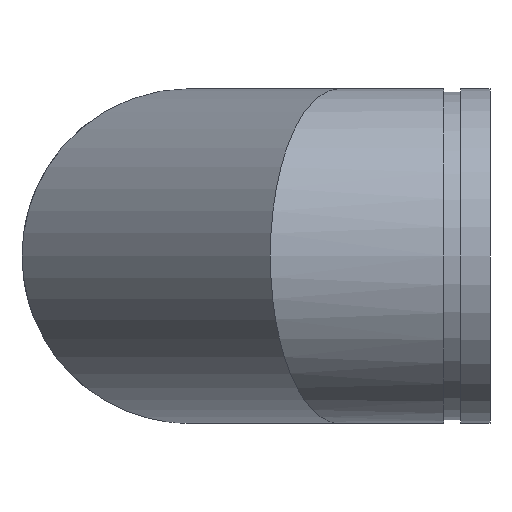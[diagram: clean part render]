
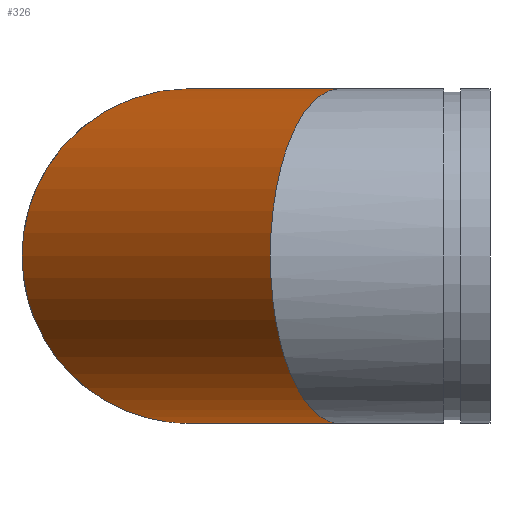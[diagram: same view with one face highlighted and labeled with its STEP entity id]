
A CAD part, left-side view. The second image highlights one B-rep face of the part: STEP entity #326.
In plain terms, the highlighted cylindrical face has radius 109.537 mm (diameter 219.075 mm), a full revolution.
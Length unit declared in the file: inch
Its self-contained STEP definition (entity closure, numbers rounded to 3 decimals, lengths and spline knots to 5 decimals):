
#51=ELLIPSE('',#383,4.66782,4.3125);
#52=ELLIPSE('',#384,4.66782,4.3125);
#53=ELLIPSE('',#385,4.66782,4.3125);
#54=ELLIPSE('',#388,4.66782,4.3125);
#55=ELLIPSE('',#389,4.66782,4.3125);
#56=ELLIPSE('',#390,4.66782,4.3125);
#82=FACE_OUTER_BOUND('',#103,.T.);
#103=EDGE_LOOP('',(#269,#270,#271,#272,#273,#274,#275,#276));
#115=LINE('',#606,#125);
#125=VECTOR('',#494,4.3125);
#165=VERTEX_POINT('',#596);
#166=VERTEX_POINT('',#598);
#167=VERTEX_POINT('',#600);
#168=VERTEX_POINT('',#605);
#169=VERTEX_POINT('',#607);
#170=VERTEX_POINT('',#609);
#201=EDGE_CURVE('',#165,#166,#51,.T.);
#202=EDGE_CURVE('',#167,#166,#52,.T.);
#203=EDGE_CURVE('',#167,#165,#53,.T.);
#204=EDGE_CURVE('',#165,#168,#115,.T.);
#205=EDGE_CURVE('',#168,#169,#54,.T.);
#206=EDGE_CURVE('',#170,#169,#55,.T.);
#207=EDGE_CURVE('',#170,#168,#56,.T.);
#269=ORIENTED_EDGE('',*,*,#203,.F.);
#270=ORIENTED_EDGE('',*,*,#202,.T.);
#271=ORIENTED_EDGE('',*,*,#201,.F.);
#272=ORIENTED_EDGE('',*,*,#204,.T.);
#273=ORIENTED_EDGE('',*,*,#205,.T.);
#274=ORIENTED_EDGE('',*,*,#206,.F.);
#275=ORIENTED_EDGE('',*,*,#207,.T.);
#276=ORIENTED_EDGE('',*,*,#204,.F.);
#293=CYLINDRICAL_SURFACE('',#387,4.3125);
#326=ADVANCED_FACE('',(#82),#293,.T.);
#383=AXIS2_PLACEMENT_3D('',#599,#484,#485);
#384=AXIS2_PLACEMENT_3D('',#601,#486,#487);
#385=AXIS2_PLACEMENT_3D('',#602,#488,#489);
#387=AXIS2_PLACEMENT_3D('',#604,#492,#493);
#388=AXIS2_PLACEMENT_3D('',#608,#495,#496);
#389=AXIS2_PLACEMENT_3D('',#610,#497,#498);
#390=AXIS2_PLACEMENT_3D('',#611,#499,#500);
#484=DIRECTION('center_axis',(-0.383,-0.924,0.));
#485=DIRECTION('ref_axis',(0.924,-0.383,0.));
#486=DIRECTION('center_axis',(0.383,0.924,0.));
#487=DIRECTION('ref_axis',(0.924,-0.383,0.));
#488=DIRECTION('center_axis',(-0.383,-0.924,0.));
#489=DIRECTION('ref_axis',(0.924,-0.383,0.));
#492=DIRECTION('center_axis',(-0.707,-0.707,0.));
#493=DIRECTION('ref_axis',(0.707,-0.707,0.));
#494=DIRECTION('',(0.707,0.707,0.));
#495=DIRECTION('center_axis',(-0.924,-0.383,0.));
#496=DIRECTION('ref_axis',(0.383,-0.924,0.));
#497=DIRECTION('center_axis',(0.924,0.383,0.));
#498=DIRECTION('ref_axis',(0.383,-0.924,0.));
#499=DIRECTION('center_axis',(-0.924,-0.383,0.));
#500=DIRECTION('ref_axis',(0.383,-0.924,0.));
#596=CARTESIAN_POINT('',(-4.3125,-2.0887,0.));
#598=CARTESIAN_POINT('',(0.,-3.875,-4.3125));
#599=CARTESIAN_POINT('Origin',(0.,-3.875,0.));
#600=CARTESIAN_POINT('',(0.,-3.875,4.3125));
#601=CARTESIAN_POINT('Origin',(0.,-3.875,0.));
#602=CARTESIAN_POINT('Origin',(0.,-3.875,0.));
#604=CARTESIAN_POINT('Origin',(3.875,0.,0.));
#605=CARTESIAN_POINT('',(2.0887,4.3125,0.));
#606=CARTESIAN_POINT('',(0.8256,3.0494,0.));
#607=CARTESIAN_POINT('',(3.875,0.,-4.3125));
#608=CARTESIAN_POINT('Origin',(3.875,0.,0.));
#609=CARTESIAN_POINT('',(3.875,0.,4.3125));
#610=CARTESIAN_POINT('Origin',(3.875,0.,0.));
#611=CARTESIAN_POINT('Origin',(3.875,0.,0.));
